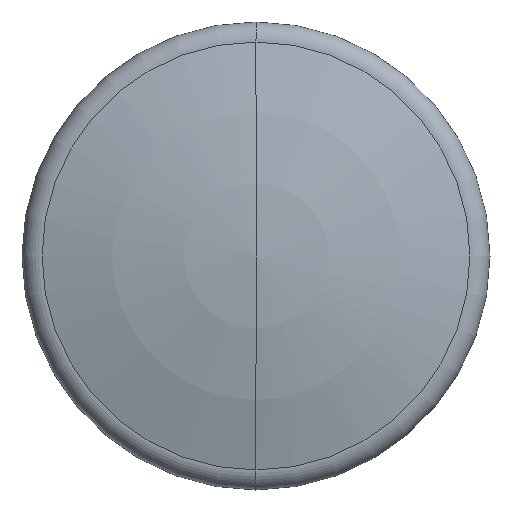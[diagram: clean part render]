
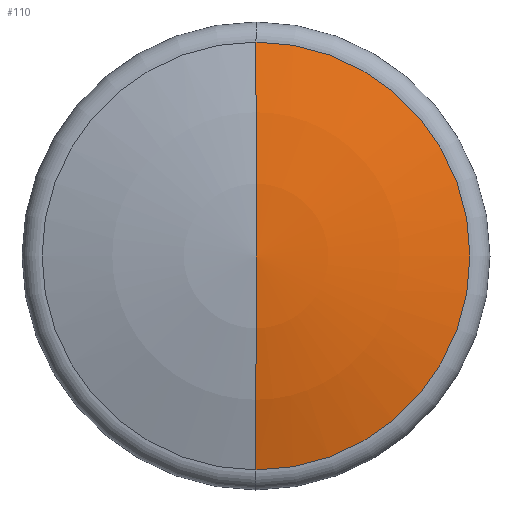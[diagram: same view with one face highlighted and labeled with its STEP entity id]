
A CAD part, front view. The second image highlights one B-rep face of the part: STEP entity #110.
In plain terms, the highlighted toroidal (fillet/blend) face has major radius 1.25 mm and minor radius 60.463 mm.
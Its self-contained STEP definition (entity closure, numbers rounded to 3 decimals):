
#74 = EDGE_CURVE( '', #114, #108, #186, .T. );
#78 = EDGE_CURVE( '', #114, #166, #190, .T. );
#108 = VERTEX_POINT( '', #224 );
#110 = ADVANCED_FACE( '', ( #226 ), #227, .T. );
#114 = VERTEX_POINT( '', #232 );
#124 = EDGE_CURVE( '', #166, #108, #242, .T. );
#166 = VERTEX_POINT( '', #291 );
#186 = CIRCLE( '', #303, 16. );
#190 = CIRCLE( '', #309, 60.463 );
#224 = CARTESIAN_POINT( '', ( 0., -24.5, 16. ) );
#226 = FACE_OUTER_BOUND( '', #353, .T. );
#227 = TOROIDAL_SURFACE( '', #354, -1.25, 60.463 );
#232 = CARTESIAN_POINT( '', ( 0., -24.5, -16. ) );
#242 = CIRCLE( '', #373, 60.463 );
#291 = CARTESIAN_POINT( '', ( 0., -27., 0. ) );
#303 = AXIS2_PLACEMENT_3D( '', #436, #437, #438 );
#309 = AXIS2_PLACEMENT_3D( '', #442, #443, #444 );
#353 = EDGE_LOOP( '', ( #492, #493, #494 ) );
#354 = AXIS2_PLACEMENT_3D( '', #495, #496, #497 );
#373 = AXIS2_PLACEMENT_3D( '', #515, #516, #517 );
#436 = CARTESIAN_POINT( '', ( 0., -24.5, 0. ) );
#437 = DIRECTION( '', ( 0., -1., 0. ) );
#438 = DIRECTION( '', ( 0., 0., 1. ) );
#442 = CARTESIAN_POINT( '', ( 0., 33.45, 1.25 ) );
#443 = DIRECTION( '', ( -1., 0., 0. ) );
#444 = DIRECTION( '', ( 0., 0., -1. ) );
#492 = ORIENTED_EDGE( '', *, *, #124, .F. );
#493 = ORIENTED_EDGE( '', *, *, #78, .F. );
#494 = ORIENTED_EDGE( '', *, *, #74, .T. );
#495 = CARTESIAN_POINT( '', ( 0., 33.45, 0. ) );
#496 = DIRECTION( '', ( 0., -1., 0. ) );
#497 = DIRECTION( '', ( 0., 0., -1. ) );
#515 = CARTESIAN_POINT( '', ( 0., 33.45, -1.25 ) );
#516 = DIRECTION( '', ( -1., 0., 0. ) );
#517 = DIRECTION( '', ( 0., 0., 1. ) );
